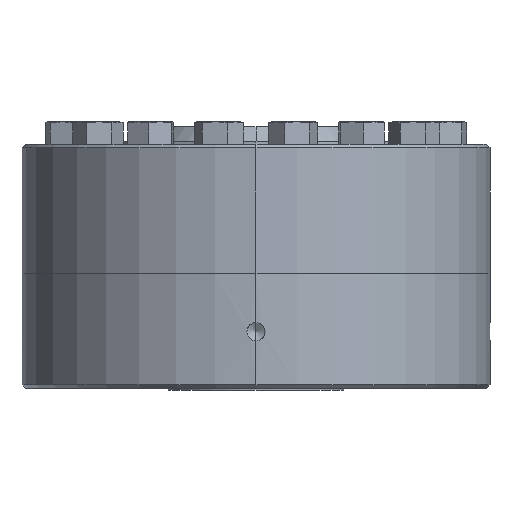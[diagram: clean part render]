
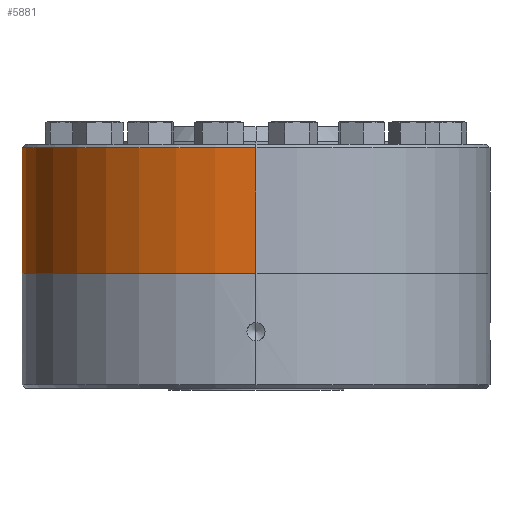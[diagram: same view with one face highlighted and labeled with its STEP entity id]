
A CAD part, left-side view. The second image highlights one B-rep face of the part: STEP entity #5881.
In plain terms, the highlighted cylindrical face has radius 101.575 mm (diameter 203.149 mm), a partial arc.
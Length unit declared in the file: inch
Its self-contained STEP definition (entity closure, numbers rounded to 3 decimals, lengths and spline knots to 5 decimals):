
#168 = CARTESIAN_POINT ( 'NONE',  ( 3.999, 0., -0.61 ) ) ;
#197 = CARTESIAN_POINT ( 'NONE',  ( 3.999, 0., -2.25 ) ) ;
#416 = LINE ( 'NONE', #417, #418 ) ;
#417 = CARTESIAN_POINT ( 'NONE',  ( -3.999, 0., -0.11 ) ) ;
#418 = VECTOR ( 'NONE', #419, 39.37008 ) ;
#419 = DIRECTION ( 'NONE',  ( 0., 0., -1. ) ) ;
#420 = EDGE_CURVE ( 'NONE', #4595, #5807, #6400, .T. ) ;
#677 = LINE ( 'NONE', #678, #679 ) ;
#678 = CARTESIAN_POINT ( 'NONE',  ( 3.999, 0., -0.11 ) ) ;
#679 = VECTOR ( 'NONE', #680, 39.37008 ) ;
#680 = DIRECTION ( 'NONE',  ( 0., 0., -1. ) ) ;
#1508 = CARTESIAN_POINT ( 'NONE',  ( 3.999, 0., -1.64 ) ) ;
#1692 = FACE_OUTER_BOUND ( 'NONE', #4389, .T. ) ;
#1693 = CYLINDRICAL_SURFACE ( 'NONE', #1694, 3.999 ) ;
#1694 = AXIS2_PLACEMENT_3D ( 'NONE', #1695, #1696, #1698 ) ;
#1695 = CARTESIAN_POINT ( 'NONE',  ( 0., 0., -0.11 ) ) ;
#1696 = DIRECTION ( 'NONE',  ( 0., 0., -1. ) ) ;
#1698 = DIRECTION ( 'NONE',  ( -1., 0., 0. ) ) ;
#2561 = LINE ( 'NONE', #2562, #2563 ) ;
#2562 = CARTESIAN_POINT ( 'NONE',  ( 3.999, 0., -0.11 ) ) ;
#2563 = VECTOR ( 'NONE', #2564, 39.37008 ) ;
#2564 = DIRECTION ( 'NONE',  ( 0., 0., -1. ) ) ;
#2981 = CARTESIAN_POINT ( 'NONE',  ( 3.9657, 0.515, -0.61 ) ) ;
#3033 = LINE ( 'NONE', #3039, #3040 ) ;
#3039 = CARTESIAN_POINT ( 'NONE',  ( 3.9657, 0.515, -0.11 ) ) ;
#3040 = VECTOR ( 'NONE', #3041, 39.37008 ) ;
#3041 = DIRECTION ( 'NONE',  ( 0., 0., -1. ) ) ;
#3088 = CARTESIAN_POINT ( 'NONE',  ( -3.999, 0., -0.11 ) ) ;
#3151 = ORIENTED_EDGE ( 'NONE', *, *, #420, .T. ) ;
#3158 = CIRCLE ( 'NONE', #3159, 3.999 ) ;
#3159 = AXIS2_PLACEMENT_3D ( 'NONE', #3160, #3161, #3162 ) ;
#3160 = CARTESIAN_POINT ( 'NONE',  ( 0., 0., -0.11 ) ) ;
#3161 = DIRECTION ( 'NONE',  ( 0., 0., -1. ) ) ;
#3162 = DIRECTION ( 'NONE',  ( -1., 0., 0. ) ) ;
#3339 = VERTEX_POINT ( 'NONE', #7892 ) ;
#3492 = VERTEX_POINT ( 'NONE', #7999 ) ;
#3819 = ORIENTED_EDGE ( 'NONE', *, *, #6236, .T. ) ;
#3953 = CIRCLE ( 'NONE', #3954, 3.999 ) ;
#3954 = AXIS2_PLACEMENT_3D ( 'NONE', #3955, #3956, #3957 ) ;
#3955 = CARTESIAN_POINT ( 'NONE',  ( 0., 0., -2.25 ) ) ;
#3956 = DIRECTION ( 'NONE',  ( 0., 0., 1. ) ) ;
#3957 = DIRECTION ( 'NONE',  ( -1., 0., 0. ) ) ;
#4222 = ORIENTED_EDGE ( 'NONE', *, *, #7368, .T. ) ;
#4389 = EDGE_LOOP ( 'NONE', ( #4222, #4526, #6056, #6955, #3151, #3819, #4944, #10690 ) ) ;
#4526 = ORIENTED_EDGE ( 'NONE', *, *, #5439, .T. ) ;
#4595 = VERTEX_POINT ( 'NONE', #9324 ) ;
#4944 = ORIENTED_EDGE ( 'NONE', *, *, #9116, .T. ) ;
#5322 = VERTEX_POINT ( 'NONE', #168 ) ;
#5330 = VERTEX_POINT ( 'NONE', #197 ) ;
#5369 = EDGE_CURVE ( 'NONE', #7262, #3339, #416, .T. ) ;
#5439 = EDGE_CURVE ( 'NONE', #3492, #5322, #677, .T. ) ;
#5807 = VERTEX_POINT ( 'NONE', #1508 ) ;
#5881 = ADVANCED_FACE ( 'NONE', ( #1692 ), #1693, .T. ) ;
#6056 = ORIENTED_EDGE ( 'NONE', *, *, #11338, .T. ) ;
#6236 = EDGE_CURVE ( 'NONE', #5807, #5330, #2561, .T. ) ;
#6400 = CIRCLE ( 'NONE', #6401, 3.999 ) ;
#6401 = AXIS2_PLACEMENT_3D ( 'NONE', #6402, #6403, #6404 ) ;
#6402 = CARTESIAN_POINT ( 'NONE',  ( 0., 0., -1.64 ) ) ;
#6403 = DIRECTION ( 'NONE',  ( 0., 0., -1. ) ) ;
#6404 = DIRECTION ( 'NONE',  ( -1., 0., 0. ) ) ;
#6955 = ORIENTED_EDGE ( 'NONE', *, *, #7119, .T. ) ;
#7058 = VERTEX_POINT ( 'NONE', #2981 ) ;
#7119 = EDGE_CURVE ( 'NONE', #7058, #4595, #3033, .T. ) ;
#7262 = VERTEX_POINT ( 'NONE', #3088 ) ;
#7368 = EDGE_CURVE ( 'NONE', #7262, #3492, #3158, .T. ) ;
#7892 = CARTESIAN_POINT ( 'NONE',  ( -3.999, 0., -2.25 ) ) ;
#7999 = CARTESIAN_POINT ( 'NONE',  ( 3.999, 0., -0.11 ) ) ;
#9116 = EDGE_CURVE ( 'NONE', #5330, #3339, #3953, .T. ) ;
#9324 = CARTESIAN_POINT ( 'NONE',  ( 3.9657, 0.515, -1.64 ) ) ;
#10690 = ORIENTED_EDGE ( 'NONE', *, *, #5369, .F. ) ;
#11338 = EDGE_CURVE ( 'NONE', #5322, #7058, #11921, .T. ) ;
#11921 = CIRCLE ( 'NONE', #11922, 3.999 ) ;
#11922 = AXIS2_PLACEMENT_3D ( 'NONE', #11923, #11924, #11925 ) ;
#11923 = CARTESIAN_POINT ( 'NONE',  ( 0., 0., -0.61 ) ) ;
#11924 = DIRECTION ( 'NONE',  ( 0., 0., 1. ) ) ;
#11925 = DIRECTION ( 'NONE',  ( -1., 0., 0. ) ) ;
